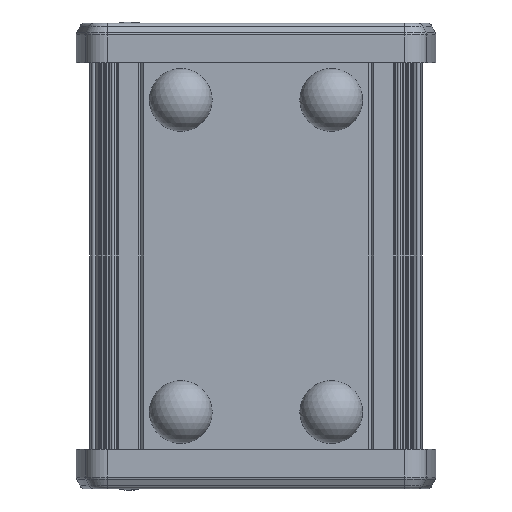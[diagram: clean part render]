
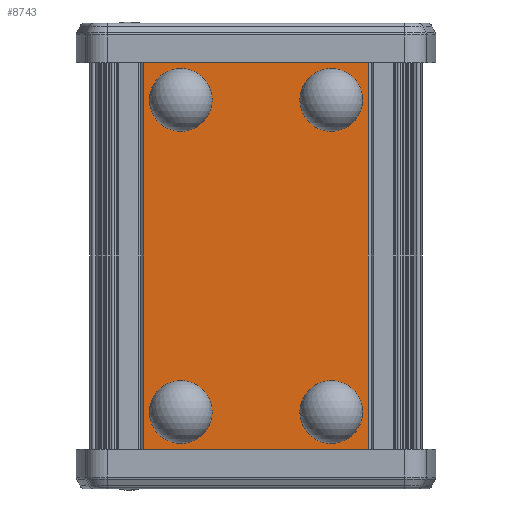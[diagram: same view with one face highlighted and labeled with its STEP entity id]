
A CAD part, front view. The second image highlights one B-rep face of the part: STEP entity #8743.
In plain terms, the highlighted planar face has unit normal (0, -1, 0).
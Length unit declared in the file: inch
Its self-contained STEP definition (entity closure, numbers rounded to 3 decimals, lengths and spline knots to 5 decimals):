
#359 = CARTESIAN_POINT ( 'NONE',  ( -0.84643, -0.59055, -1.5748 ) ) ;
#443 = LINE ( 'NONE', #12490, #15328 ) ;
#1631 = CARTESIAN_POINT ( 'NONE',  ( -0.84643, -0.59055, 1.5748 ) ) ;
#1662 = ORIENTED_EDGE ( 'NONE', *, *, #6305, .T. ) ;
#3599 = ORIENTED_EDGE ( 'NONE', *, *, #5227, .T. ) ;
#4934 = VERTEX_POINT ( 'NONE', #15140 ) ;
#5227 = EDGE_CURVE ( 'NONE', #8772, #4934, #18198, .T. ) ;
#5394 = VECTOR ( 'NONE', #13160, 39.37008 ) ;
#6050 = AXIS2_PLACEMENT_3D ( 'NONE', #1631, #13537, #6132 ) ;
#6132 = DIRECTION ( 'NONE',  ( -1., 0., 0. ) ) ;
#6183 = EDGE_CURVE ( 'NONE', #13066, #16909, #15373, .T. ) ;
#6305 = EDGE_CURVE ( 'NONE', #4934, #16909, #18415, .T. ) ;
#6354 = DIRECTION ( 'NONE',  ( 1., 0., 0. ) ) ;
#6780 = FACE_OUTER_BOUND ( 'NONE', #13201, .T. ) ;
#7236 = CARTESIAN_POINT ( 'NONE',  ( 0.84643, -0.59055, -1.5748 ) ) ;
#7543 = PLANE ( 'NONE',  #6050 ) ;
#8743 = ADVANCED_FACE ( 'NONE', ( #6780 ), #7543, .F. ) ;
#8772 = VERTEX_POINT ( 'NONE', #15336 ) ;
#9538 = CARTESIAN_POINT ( 'NONE',  ( 0.84643, -0.59055, 1.5748 ) ) ;
#11072 = DIRECTION ( 'NONE',  ( 1., 0., 0. ) ) ;
#11213 = ORIENTED_EDGE ( 'NONE', *, *, #17295, .F. ) ;
#11624 = CARTESIAN_POINT ( 'NONE',  ( -0.84643, -0.59055, 1.5748 ) ) ;
#12490 = CARTESIAN_POINT ( 'NONE',  ( -0.84643, -0.59055, 1.5748 ) ) ;
#13066 = VERTEX_POINT ( 'NONE', #9538 ) ;
#13160 = DIRECTION ( 'NONE',  ( 0., 0., -1. ) ) ;
#13201 = EDGE_LOOP ( 'NONE', ( #1662, #14708, #11213, #3599 ) ) ;
#13537 = DIRECTION ( 'NONE',  ( 0., 1., 0. ) ) ;
#14708 = ORIENTED_EDGE ( 'NONE', *, *, #6183, .F. ) ;
#14895 = VECTOR ( 'NONE', #19127, 39.37008 ) ;
#15140 = CARTESIAN_POINT ( 'NONE',  ( -0.84643, -0.59055, -1.5748 ) ) ;
#15328 = VECTOR ( 'NONE', #11072, 39.37008 ) ;
#15336 = CARTESIAN_POINT ( 'NONE',  ( -0.84643, -0.59055, 1.5748 ) ) ;
#15373 = LINE ( 'NONE', #18934, #14895 ) ;
#16909 = VERTEX_POINT ( 'NONE', #7236 ) ;
#17295 = EDGE_CURVE ( 'NONE', #8772, #13066, #443, .T. ) ;
#17959 = VECTOR ( 'NONE', #6354, 39.37008 ) ;
#18198 = LINE ( 'NONE', #11624, #5394 ) ;
#18415 = LINE ( 'NONE', #359, #17959 ) ;
#18934 = CARTESIAN_POINT ( 'NONE',  ( 0.84643, -0.59055, 1.5748 ) ) ;
#19127 = DIRECTION ( 'NONE',  ( 0., 0., -1. ) ) ;
